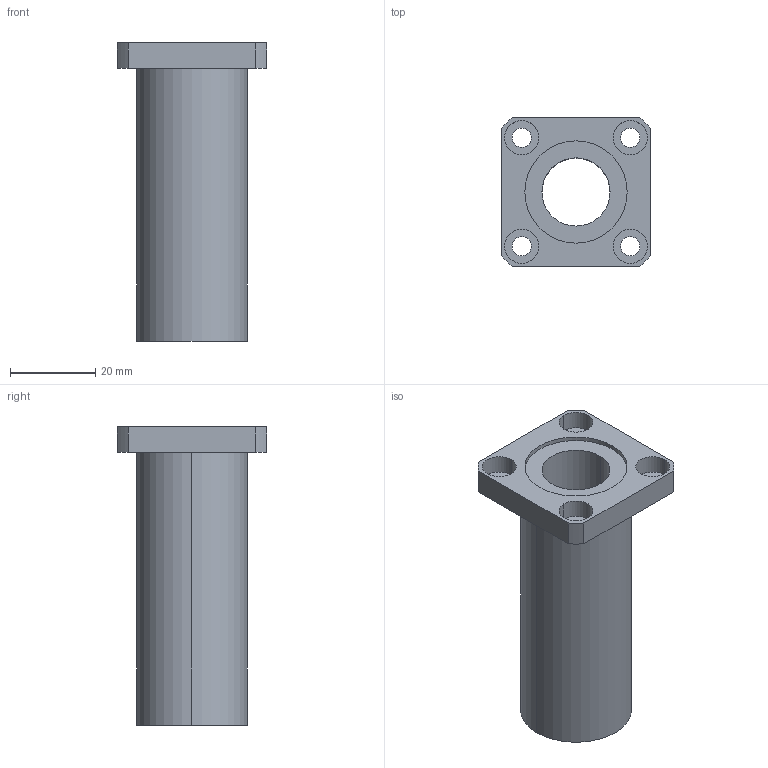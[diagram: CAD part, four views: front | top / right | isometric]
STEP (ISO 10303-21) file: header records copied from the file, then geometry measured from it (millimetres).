
FILE_DESCRIPTION((''),'2;1');
FILE_NAME('C:\Documents and Settings\ｿﾀﾀ蠑ｷ1\ｹﾙﾅﾁ ﾈｭｸ饅\ｺﾎﾇｰﾆﾄﾀﾏ\ﾁｦﾇｰ\LMEK__LUU\LMEK16LUU.stp','2005-06-15T11:01:17',('ｿﾀﾀ蠑ｷ1'),(''),'Autodesk Inventor 9','Autodesk Inventor 9','');
FILE_SCHEMA(('AUTOMOTIVE_DESIGN { 1 0 10303 214 1 1 1 1 }'));
Length unit declared in the file: millimetre
Products named in the file (1): LMEK__(L)
Bounding box: 35 x 35 x 70 mm (x, y, z)
Volume: 25690.7 mm3; surface area: 12028.6 mm2
Topology: 1 solids, 1 shells, 41 faces, 96 edges, 64 vertices
Faces by surface type: bspline 20, cylinder 12, plane 9
Entity records: 1457 total; most frequent: CARTESIAN_POINT 486, DIRECTION 196, ORIENTED_EDGE 192, EDGE_CURVE 96, AXIS2_PLACEMENT_3D 78, VERTEX_POINT 64, EDGE_LOOP 58, CIRCLE 56
